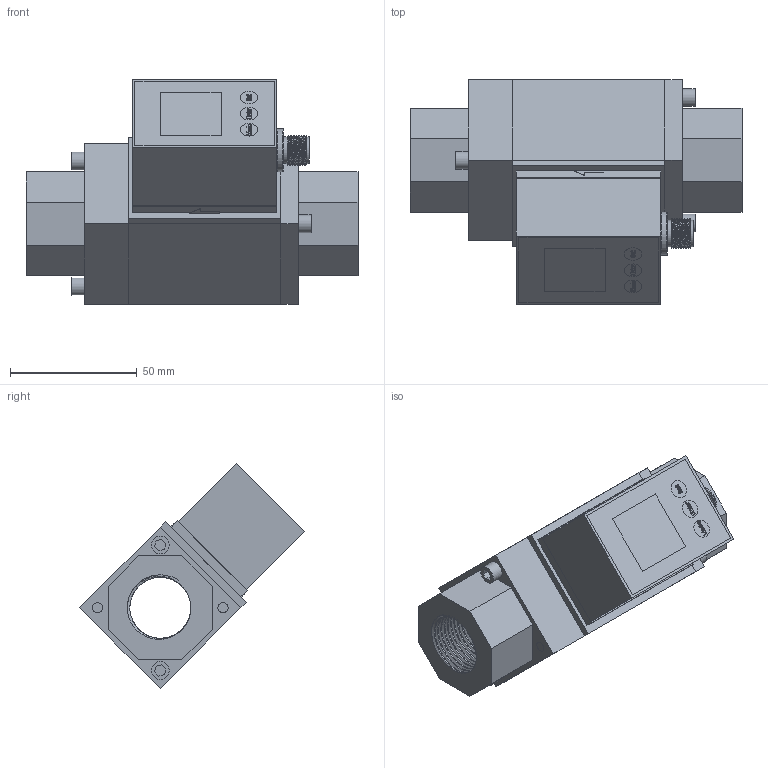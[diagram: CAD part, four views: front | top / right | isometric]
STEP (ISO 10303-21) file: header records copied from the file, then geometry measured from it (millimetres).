
FILE_DESCRIPTION (( 'STEP AP203' ), '1' );
FILE_NAME ('湮講最G34.STEP', '2024-07-12T01:32:06', ( '' ), ( '' ), 'SwSTEP 2.0', 'SolidWorks 2023', '' );
FILE_SCHEMA (( 'CONFIG_CONTROL_DESIGN' ));
Length unit declared in the file: millimetre
Products named in the file (9): 03-100M12盘装插座; 01-100基座; 100-G34进水口; 08-100固定螺栓; 100-G34出水口; 04-100M12针套（5针）; 02-100显示模块; 100-G34主体; 大量程G34
Assembly tree (11 placements, depth 2):
  大量程G34
    01-100基座
    02-100显示模块
    03-100M12盘装插座
    04-100M12针套（5针）
    08-100固定螺栓  x4
    100-G34出水口
    100-G34进水口
    100-G34主体
Bounding box: 131 x 88.67 x 88.67 mm (x, y, z)
Volume: 260173.1 mm3; surface area: 72756 mm2
Topology: 11 solids, 11 shells, 395 faces, 990 edges, 661 vertices
Faces by surface type: plane 232, bspline 90, cylinder 65, torus 8
Full cylindrical faces by diameter (mm): 1 x5, 4 x12, 5 x4, 7 x7, 9 x1, 9.5 x2, 10.5 x2, 12 x2, 17 x1, 24.1 x25
Entity records: 20772 total; most frequent: CARTESIAN_POINT 12412, ORIENTED_EDGE 1594, DIRECTION 1192, EDGE_CURVE 797, VERTEX_POINT 556, LINE 520, VECTOR 520, EDGE_LOOP 445
